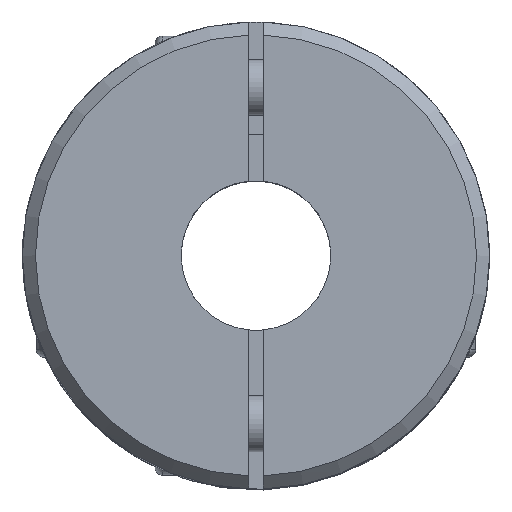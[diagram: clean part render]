
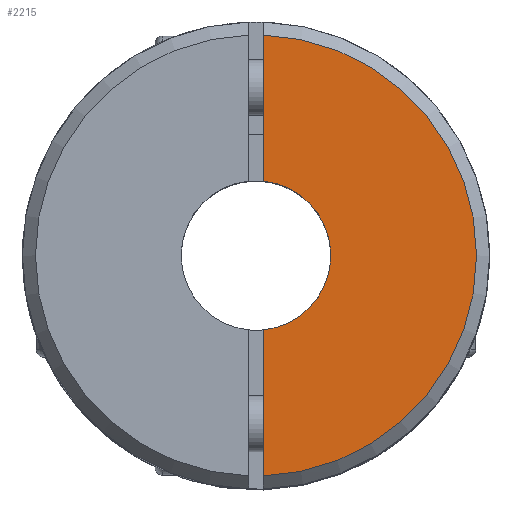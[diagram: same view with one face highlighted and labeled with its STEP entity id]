
A CAD part, top view. The second image highlights one B-rep face of the part: STEP entity #2215.
In plain terms, the highlighted planar face has unit normal (0, 0, 1).
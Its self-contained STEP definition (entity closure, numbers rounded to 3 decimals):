
#96 = LINE ( 'NONE', #1826, #4506 ) ;
#122 = DIRECTION ( 'NONE',  ( 0., 1., 0. ) ) ;
#144 = AXIS2_PLACEMENT_3D ( 'NONE', #506, #4337, #122 ) ;
#224 = EDGE_LOOP ( 'NONE', ( #1781, #2190, #1945, #1151 ) ) ;
#378 = EDGE_CURVE ( 'NONE', #426, #499, #96, .T. ) ;
#383 = CARTESIAN_POINT ( 'NONE',  ( 0.4, -11.793, 15.5 ) ) ;
#426 = VERTEX_POINT ( 'NONE', #2815 ) ;
#499 = VERTEX_POINT ( 'NONE', #383 ) ;
#506 = CARTESIAN_POINT ( 'NONE',  ( 0., 1.5, 15.5 ) ) ;
#513 = CARTESIAN_POINT ( 'NONE',  ( 0., 0., 15.5 ) ) ;
#670 = DIRECTION ( 'NONE',  ( 0., 0., 1. ) ) ;
#851 = DIRECTION ( 'NONE',  ( 0., 0., 1. ) ) ;
#1151 = ORIENTED_EDGE ( 'NONE', *, *, #3315, .T. ) ;
#1174 = CIRCLE ( 'NONE', #4032, 11.8 ) ;
#1781 = ORIENTED_EDGE ( 'NONE', *, *, #2823, .T. ) ;
#1826 = CARTESIAN_POINT ( 'NONE',  ( 0.4, 15., 15.5 ) ) ;
#1945 = ORIENTED_EDGE ( 'NONE', *, *, #378, .T. ) ;
#1969 = VECTOR ( 'NONE', #2524, 1000. ) ;
#1976 = CIRCLE ( 'NONE', #4175, 4. ) ;
#2072 = LINE ( 'NONE', #4240, #1969 ) ;
#2128 = CARTESIAN_POINT ( 'NONE',  ( 0.4, 3.98, 15.5 ) ) ;
#2190 = ORIENTED_EDGE ( 'NONE', *, *, #3090, .F. ) ;
#2215 = ADVANCED_FACE ( 'NONE', ( #3266 ), #2662, .F. ) ;
#2430 = CARTESIAN_POINT ( 'NONE',  ( 0.4, 11.793, 15.5 ) ) ;
#2524 = DIRECTION ( 'NONE',  ( 0., -1., 0. ) ) ;
#2662 = PLANE ( 'NONE',  #144 ) ;
#2803 = DIRECTION ( 'NONE',  ( 1., 0., 0. ) ) ;
#2815 = CARTESIAN_POINT ( 'NONE',  ( 0.4, -3.98, 15.5 ) ) ;
#2823 = EDGE_CURVE ( 'NONE', #4211, #3953, #2072, .T. ) ;
#3020 = CARTESIAN_POINT ( 'NONE',  ( 0., 0., 15.5 ) ) ;
#3090 = EDGE_CURVE ( 'NONE', #426, #3953, #1976, .T. ) ;
#3265 = DIRECTION ( 'NONE',  ( 0., -1., 0. ) ) ;
#3266 = FACE_OUTER_BOUND ( 'NONE', #224, .T. ) ;
#3315 = EDGE_CURVE ( 'NONE', #499, #4211, #1174, .T. ) ;
#3953 = VERTEX_POINT ( 'NONE', #2128 ) ;
#4032 = AXIS2_PLACEMENT_3D ( 'NONE', #513, #851, #4314 ) ;
#4175 = AXIS2_PLACEMENT_3D ( 'NONE', #3020, #670, #2803 ) ;
#4211 = VERTEX_POINT ( 'NONE', #2430 ) ;
#4240 = CARTESIAN_POINT ( 'NONE',  ( 0.4, 15., 15.5 ) ) ;
#4314 = DIRECTION ( 'NONE',  ( 0., 1., 0. ) ) ;
#4337 = DIRECTION ( 'NONE',  ( 0., 0., -1. ) ) ;
#4506 = VECTOR ( 'NONE', #3265, 1000. ) ;
